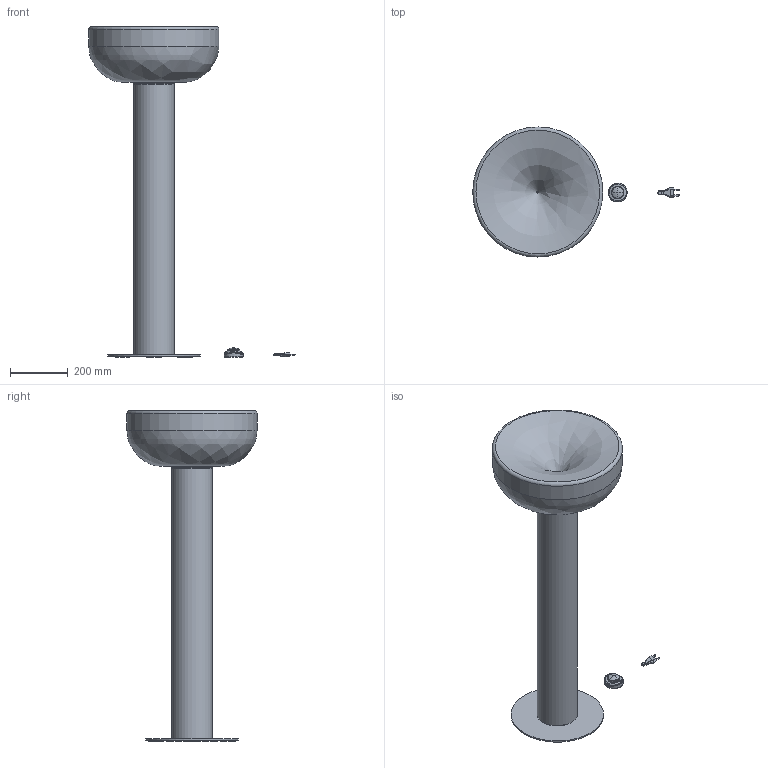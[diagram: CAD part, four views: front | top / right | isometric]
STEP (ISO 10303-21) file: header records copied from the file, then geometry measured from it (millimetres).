
FILE_DESCRIPTION(/* description */ ('AELLA F45'),/* implementation_level */ '2;1');
FILE_NAME(/* name */ '00500MF0LD0XXDP.stp',/* time_stamp */ '2024-03-25T15:20:51+01:00',/* author */ ('davide.turci'),/* organization */ (''),/* preprocessor_version */ 'ST-DEVELOPER v19.2',/* originating_system */ 'Autodesk Inventor 2023',/* authorisation */ '');
FILE_SCHEMA (('CONFIG_CONTROL_DESIGN'));
Products named in the file (21): 00500MF0LD0XXDP; 00500C011; 00500C015; 00500C015_1; DISTANZIALE PRESSIONE M3 H8 FIL. PASS. TIPO SPECIALINSERT DP08 1 030 
12; 00500C204; Z001; C004; C006; C009; VITE TC AUTOFIL M2,9X9,5 ZN UNI6954AB DIN7981C; 00500C212; 00500C257; B002; 00500V002-A; X0005-006; S009; S007; W001; W011; X0022-003
Assembly tree (28 placements, depth 3):
  00500MF0LD0XXDP
    00500C011
    00500C015
      00500C015_1
      DISTANZIALE PRESSIONE M3 H8 FIL. PASS. TIPO SPECIALINSERT DP08 1 030 
12  x2
    00500C204
      Z001
      C004
      C006
      C009
      VITE TC AUTOFIL M2,9X9,5 ZN UNI6954AB DIN7981C  x2
    00500C212
    00500C257
    B002
    00500V002-A
    X0005-006  x2
    S009
    S007
    W001
    W011
    X0022-003  x6
Bounding box: 714.3 x 449.99 x 1143.49 mm (x, y, z)
Volume: 4445290 mm3; surface area: 2175033.6 mm2
Topology: 28 solids, 28 shells, 1378 faces, 3787 edges, 2503 vertices
Faces by surface type: plane 610, cylinder 597, cone 73, bspline 64, torus 28, sphere 6
Full cylindrical faces by diameter (mm): 0.8 x2, 1.15 x1, 1.8 x1, 2 x1, 2.459 x2, 2.5 x1, 2.9 x2, 3 x4, 3.2 x2, 3.3 x2, 3.5 x4, 3.8 x2, 4 x2, 4.2 x2, 5.3 x1, 5.38 x2, 5.4 x2, 5.5 x4, 6 x1, 6.6 x2, 7 x2, 10 x1, 10.5 x1, 12 x1, 20 x1, 22 x1, 24.5 x1, 50 x6, 65 x1, 108 x1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
Entity records: 77173 total; most frequent: CARTESIAN_POINT 40629, DIRECTION 7401, ORIENTED_EDGE 7272, EDGE_CURVE 3636, AXIS2_PLACEMENT_3D 2697, VERTEX_POINT 2411, LINE 2007, VECTOR 2007
